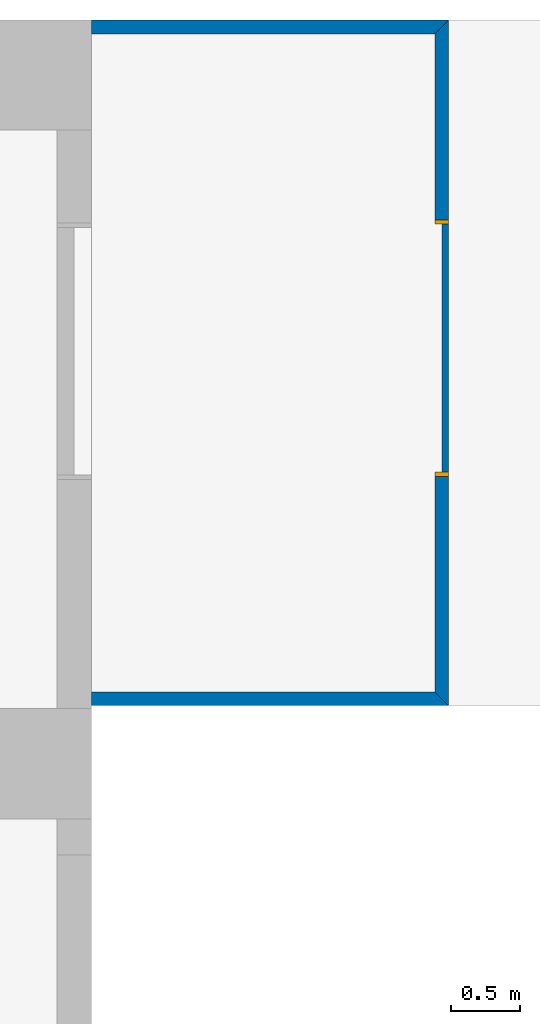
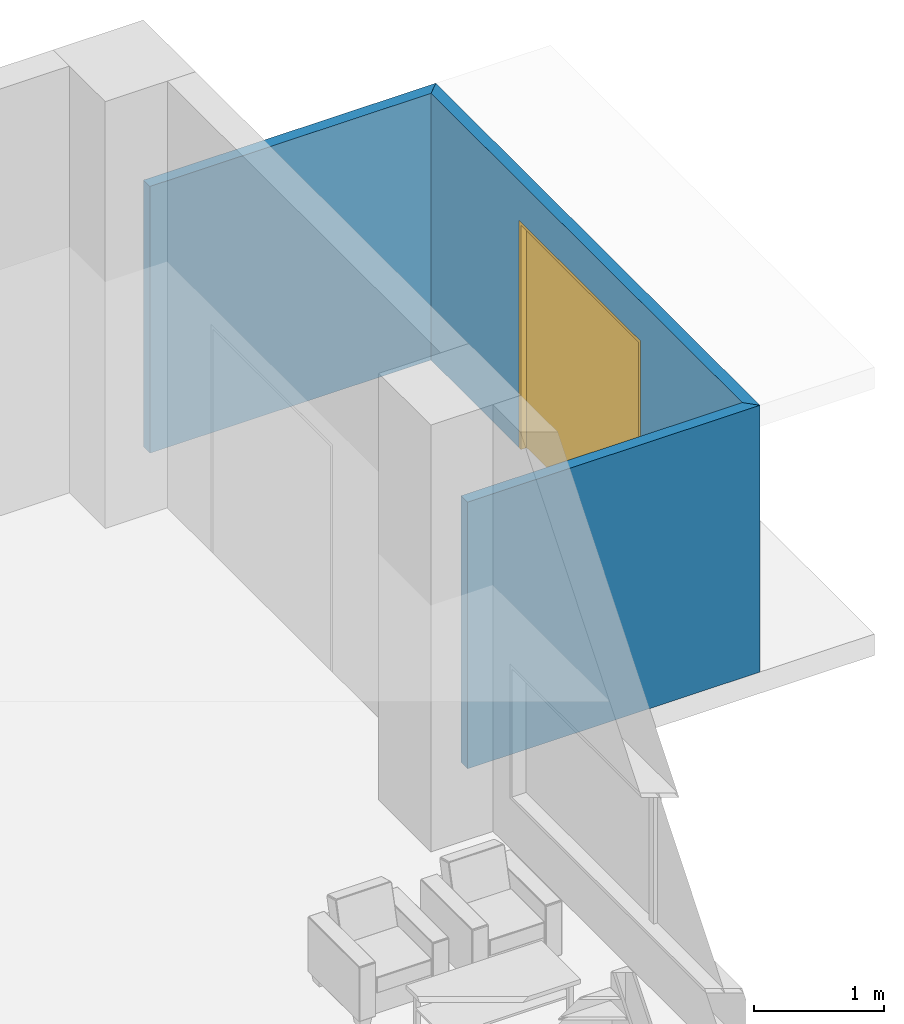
# One storey, part 6 of 17: 3 walls, 1 door, 1 opening.
"""IFC2X3 building model written with IfcOpenShell, lengths in millimetres."""

from ifc_helpers import new_model, entity, si_unit, converted_unit, direction, frame, origin_with_axes, origin_2d_with_axis, place, context, project, spatial, polyline, rectangle, outline, extrude, open_shell, surface_model, material, layer, layer_set, layer_usage, type_object, element, fill, save


model = new_model("IFC2X3")

# Units and contexts
model_context = context("Model", 3, precision=1e-05, world=origin_with_axes(), true_north=direction((0.0, 1.0)))
ifc_project = project(units=[si_unit("LENGTHUNIT", "METRE", prefix="MILLI"), si_unit("AREAUNIT", "SQUARE_METRE"), si_unit("VOLUMEUNIT", "CUBIC_METRE"), converted_unit("PLANEANGLEUNIT", "DEGREE", entity("IfcPlaneAngleMeasure", 0.017453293), si_unit("PLANEANGLEUNIT", "RADIAN"), dimensions=[0, 0, 0, 0, 0, 0, 0]), si_unit("SOLIDANGLEUNIT", "STERADIAN"), si_unit("MASSUNIT", "GRAM"), si_unit("TIMEUNIT", "SECOND"), si_unit("THERMODYNAMICTEMPERATUREUNIT", "DEGREE_CELSIUS"), si_unit("LUMINOUSINTENSITYUNIT", "LUMEN")], contexts=[model_context])

# Site, building, storey
site_placement = place(None, origin_with_axes())
site = spatial("IfcSite", under=ifc_project, at=site_placement, Name="\x83T\x83C\x83g", CompositionType="ELEMENT")
building_placement = place(site_placement, origin_with_axes())
building = spatial("IfcBuilding", under=site, at=building_placement, Name="Daitec-Sample 201208", CompositionType="ELEMENT")
storey_placement = place(building_placement, origin_with_axes())
storey = spatial("IfcBuildingStorey", under=building, at=storey_placement, Name="1F", CompositionType="ELEMENT", Elevation=0.0)

# Wall
ifc_material_1 = material(Name="\x83R\x83\x93\x83N\x83\x8a\x81[\x83g-\x8d\\\x91¢2")
ifc_layer = layer(ifc_material_1, 100.0, ventilated="UNKNOWN")
ifc_layer_set = layer_set([ifc_layer], Name="\x83R\x83\x93\x83N\x83\x8a\x81[\x83g-\x8d\\\x91¢2 100")
ifc_layer_usage_1 = layer_usage(ifc_layer_set, "AXIS2", "NEGATIVE", 0.0)
wall_type = type_object("IfcWallType", Name="\x83R\x83\x93\x83N\x83\x8a\x81[\x83g-\x8d\\\x91¢2 100", PredefinedType="NOTDEFINED")
wall_1_placement = place(storey_placement, frame((36900.0, 23800.0, 0.0), z_axis=(0.0, 0.0, 1.0), x_axis=(1.0, 0.0, 0.0)))
element("IfcWallStandardCase", 1, at=wall_1_placement, inside=storey, type_object=wall_type, material=ifc_layer_usage_1, Name="W7", context=model_context, shape_type="SweptSolid", body=[
    extrude(outline(polyline([(0.0, -100.0), (2492.7267, -100.0), (2592.7267, 0.0), (0.0, 0.0), (0.0, -100.0)])), origin_with_axes(), (0.0, 0.0, 1.0), 2500.0),
])

# Wall, opening, door
ifc_layer_usage_2 = layer_usage(ifc_layer_set, "AXIS2", "NEGATIVE", 0.0)
wall_2_placement = place(storey_placement, frame((39492.727, 23800.0, 0.0), z_axis=(0.0, 0.0, 1.0), x_axis=(0.0, -1.0, 0.0)))
wall_2 = element("IfcWallStandardCase", 2, at=wall_2_placement, inside=storey, type_object=wall_type, material=ifc_layer_usage_2, Name="W8", context=model_context, shape_type="SweptSolid", body=[
    extrude(outline(polyline([(100.0, -100.0), (4878.442, -100.0), (4978.442, 0.0), (0.0, 0.0), (100.0, -100.0)])), origin_with_axes(), (0.0, 0.0, 1.0), 2500.0),
])
opening_placement = place(wall_2_placement, frame((2382.6536, 0.0, 0.0), z_axis=(0.0, 0.0, 1.0), x_axis=(1.0, 0.0, 0.0)))
opening = element("IfcOpeningElement", 3, at=opening_placement, cuts=wall_2, context=model_context, shape_type="SweptSolid", body=[
    extrude(rectangle(XDim=1860.0, YDim=2130.0, at=origin_2d_with_axis()), frame((0.0, -151.0, 1065.0), z_axis=(0.0, 1.0, 0.0), x_axis=(1.0, 0.0, 0.0)), (0.0, 0.0, 1.0), 102.0),
])
ifc_material_2 = material(Name="\x94w\x8ci")
door_style = type_object("IfcDoorStyle", Name="\x8e©\x97R\x8aJ\x82«\x8cË_JX5", ConstructionType="NOTDEFINED", OperationType="NOTDEFINED", ParameterTakesPrecedence=False, Sizeable=False)
door_placement = place(opening_placement, frame((-900.0, 0.0, 0.0), z_axis=(0.0, 0.0, 1.0), x_axis=(1.0, 0.0, 0.0)))
door = element("IfcDoor", 4, at=door_placement, inside=storey, type_object=door_style, material=ifc_material_2, Name="SD5", OverallHeight=2100.0, OverallWidth=1800.0, context=model_context, shape_type="SurfaceModel", body=[
    surface_model("IfcShellBasedSurfaceModel", [(900.0, -50.0, 0.0), (1800.0, -50.0, 0.0), (1800.0, -50.0, 2100.0), (900.0, -50.0, 2100.0)], [open_shell([[[0, 1, 2, 3]]])]),
    surface_model("IfcShellBasedSurfaceModel", [(900.0, -50.0, 0.0), (900.0, -50.0, 2100.0), (0.0, -50.0, 2100.0), (0.0, -50.0, 0.0)], [open_shell([[[0, 1, 2, 3]]])]),
    surface_model("IfcShellBasedSurfaceModel", [(-30.0, -100.0, 0.0), (0.0, -100.0, 0.0), (0.0, -100.0, 2100.0), (1800.0, -100.0, 2100.0), (1800.0, -100.0, 0.0), (1830.0, -100.0, 0.0), (1830.0, -100.0, 2130.0), (-30.0, -100.0, 2130.0)], [open_shell([[[0, 1, 2, 3, 4, 5, 6, 7]]])]),
    surface_model("IfcShellBasedSurfaceModel", [(-30.0, 0.0, 0.0), (0.0, 0.0, 0.0), (0.0, 0.0, 2100.0), (1800.0, 0.0, 2100.0), (1800.0, 0.0, 0.0), (1830.0, 0.0, 0.0), (1830.0, 0.0, 2130.0), (-30.0, 0.0, 2130.0)], [open_shell([[[0, 1, 2, 3, 4, 5, 6, 7]]])]),
    surface_model("IfcShellBasedSurfaceModel", [(0.0, -100.0, 0.0), (0.0, 0.0, 0.0), (0.0, 0.0, 2100.0), (0.0, -100.0, 2100.0), (-30.0, -100.0, 0.0), (-30.0, 0.0, 0.0), (1800.0, 0.0, 2100.0), (1800.0, -100.0, 2100.0), (-30.0, -100.0, 2130.0), (-30.0, 0.0, 2130.0), (1800.0, 0.0, 0.0), (1800.0, -100.0, 0.0), (1830.0, -100.0, 2130.0), (1830.0, 0.0, 2130.0), (1830.0, 0.0, 0.0), (1830.0, -100.0, 0.0)], [open_shell([[[0, 1, 2, 3]], [[4, 5, 1, 0]], [[3, 2, 6, 7]], [[8, 9, 5, 4]], [[7, 6, 10, 11]], [[12, 13, 9, 8]], [[11, 10, 14, 15]], [[15, 14, 13, 12]]])]),
])
fill(opening, door)

# Wall
ifc_layer_usage_3 = layer_usage(ifc_layer_set, "AXIS2", "NEGATIVE", 0.0)
wall_3_placement = place(storey_placement, frame((39492.727, 18821.558, 0.0), z_axis=(0.0, 0.0, 1.0), x_axis=(-1.0, 0.0, 0.0)))
element("IfcWallStandardCase", 5, at=wall_3_placement, inside=storey, type_object=wall_type, material=ifc_layer_usage_3, Name="W9", context=model_context, shape_type="SweptSolid", body=[
    extrude(outline(polyline([(100.0, -100.0), (2592.7267, -100.0), (2592.7267, 0.0), (0.0, 0.0), (100.0, -100.0)])), origin_with_axes(), (0.0, 0.0, 1.0), 2500.0),
])

save(model, "model.ifc")
